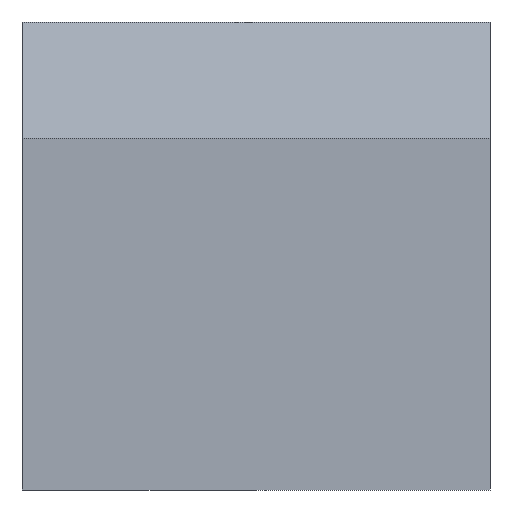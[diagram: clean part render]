
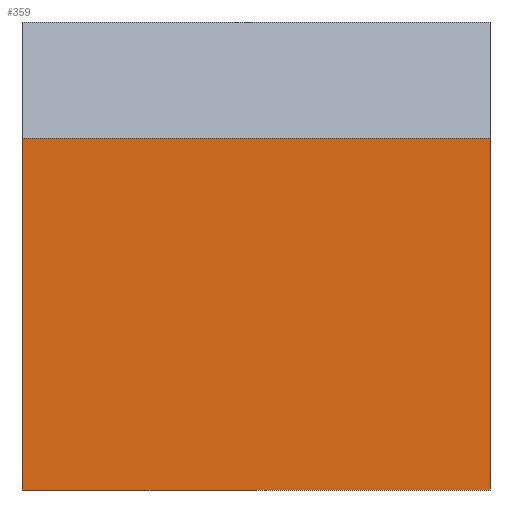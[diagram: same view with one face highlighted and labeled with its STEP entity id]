
A CAD part, left-side view. The second image highlights one B-rep face of the part: STEP entity #359.
In plain terms, the highlighted planar face has unit normal (-1, 0, 0).
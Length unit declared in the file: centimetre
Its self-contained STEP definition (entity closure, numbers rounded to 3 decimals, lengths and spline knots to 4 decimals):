
#28 = ORIENTED_EDGE ( 'NONE', *, *, #262, .T. ) ;
#59 = VECTOR ( 'NONE', #242, 100. ) ;
#87 = DIRECTION ( 'NONE',  ( 0., 0., -1. ) ) ;
#110 = EDGE_CURVE ( 'NONE', #370, #203, #144, .T. ) ;
#118 = LINE ( 'NONE', #214, #59 ) ;
#144 = LINE ( 'NONE', #265, #315 ) ;
#160 = DIRECTION ( 'NONE',  ( 1., 0., 0. ) ) ;
#164 = ORIENTED_EDGE ( 'NONE', *, *, #176, .T. ) ;
#176 = EDGE_CURVE ( 'NONE', #239, #405, #118, .T. ) ;
#177 = AXIS2_PLACEMENT_3D ( 'NONE', #382, #160, #87 ) ;
#189 = LINE ( 'NONE', #285, #330 ) ;
#192 = ORIENTED_EDGE ( 'NONE', *, *, #324, .F. ) ;
#195 = CARTESIAN_POINT ( 'NONE',  ( 0., 1000., 0. ) ) ;
#199 = FACE_OUTER_BOUND ( 'NONE', #307, .T. ) ;
#203 = VERTEX_POINT ( 'NONE', #238 ) ;
#214 = CARTESIAN_POINT ( 'NONE',  ( 0., 1000., 0. ) ) ;
#223 = DIRECTION ( 'NONE',  ( 0., 1., 0. ) ) ;
#227 = DIRECTION ( 'NONE',  ( 0., 0., -1. ) ) ;
#238 = CARTESIAN_POINT ( 'NONE',  ( 0., 1000., 752.0149 ) ) ;
#239 = VERTEX_POINT ( 'NONE', #195 ) ;
#242 = DIRECTION ( 'NONE',  ( 0., -1., 0. ) ) ;
#262 = EDGE_CURVE ( 'NONE', #203, #239, #314, .T. ) ;
#265 = CARTESIAN_POINT ( 'NONE',  ( 0., 1000., 752.0149 ) ) ;
#282 = CARTESIAN_POINT ( 'NONE',  ( 0., 0., 752.0149 ) ) ;
#285 = CARTESIAN_POINT ( 'NONE',  ( 0., 0., 1000. ) ) ;
#307 = EDGE_LOOP ( 'NONE', ( #192, #383, #28, #164 ) ) ;
#309 = PLANE ( 'NONE',  #177 ) ;
#314 = LINE ( 'NONE', #404, #345 ) ;
#315 = VECTOR ( 'NONE', #223, 100. ) ;
#324 = EDGE_CURVE ( 'NONE', #370, #405, #189, .T. ) ;
#330 = VECTOR ( 'NONE', #227, 100. ) ;
#345 = VECTOR ( 'NONE', #380, 100. ) ;
#349 = CARTESIAN_POINT ( 'NONE',  ( 0., 0., 0. ) ) ;
#359 = ADVANCED_FACE ( 'NONE', ( #199 ), #309, .F. ) ;
#370 = VERTEX_POINT ( 'NONE', #282 ) ;
#380 = DIRECTION ( 'NONE',  ( 0., 0., -1. ) ) ;
#382 = CARTESIAN_POINT ( 'NONE',  ( 0., 1000., 1000. ) ) ;
#383 = ORIENTED_EDGE ( 'NONE', *, *, #110, .T. ) ;
#404 = CARTESIAN_POINT ( 'NONE',  ( 0., 1000., 1000. ) ) ;
#405 = VERTEX_POINT ( 'NONE', #349 ) ;
